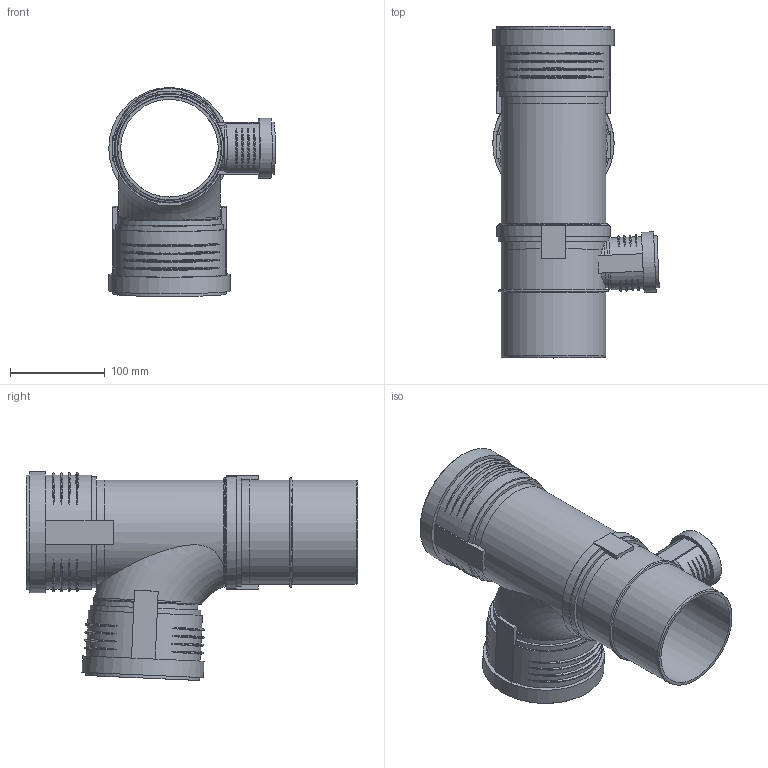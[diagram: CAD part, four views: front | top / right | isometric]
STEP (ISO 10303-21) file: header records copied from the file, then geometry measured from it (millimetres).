
FILE_DESCRIPTION(/* description */ (''),/* implementation_level */ '2;1');
FILE_NAME(/* name */ 'Z:\Geberit\Export\Export18\Kombiabzweig PP-MD_Iassembly\stp\390578.stp',/* time_stamp */ '2014-08-26T20:50:24+02:00',/* author */ ('ML'),/* organization */ (''),/* preprocessor_version */ 'ST-DEVELOPER v15.2',/* originating_system */ 'Autodesk Inventor 2014',/* authorisation */ '');
FILE_SCHEMA (('AUTOMOTIVE_DESIGN { 1 0 10303 214 3 1 1 }'));
Length unit declared in the file: millimetre
Products named in the file (11): 861360; 861401; 861404; 861739; 861363; 861404_1; 861740; 861865; 390578
Bounding box: 175.66 x 350 x 220.41 mm (x, y, z)
Volume: 666653.9 mm3; surface area: 399355.4 mm2
Topology: 6 solids, 6 shells, 220 faces, 539 edges, 370 vertices
Faces by surface type: torus 79, plane 77, cylinder 58, cone 6
Full cylindrical faces by diameter (mm): 46.15 x2, 50.15 x2, 51 x2, 55 x1, 59.7 x1, 63.7 x1, 103 x3, 103.2 x3, 110.2 x8, 113.3 x5, 120.3 x2, 121.1 x2, 128.1 x2
Entity records: 6570 total; most frequent: CARTESIAN_POINT 2612, DIRECTION 742, ORIENTED_EDGE 694, EDGE_CURVE 347, AXIS2_PLACEMENT_3D 317, VERTEX_POINT 259, EDGE_LOOP 246, STYLED_ITEM 168
